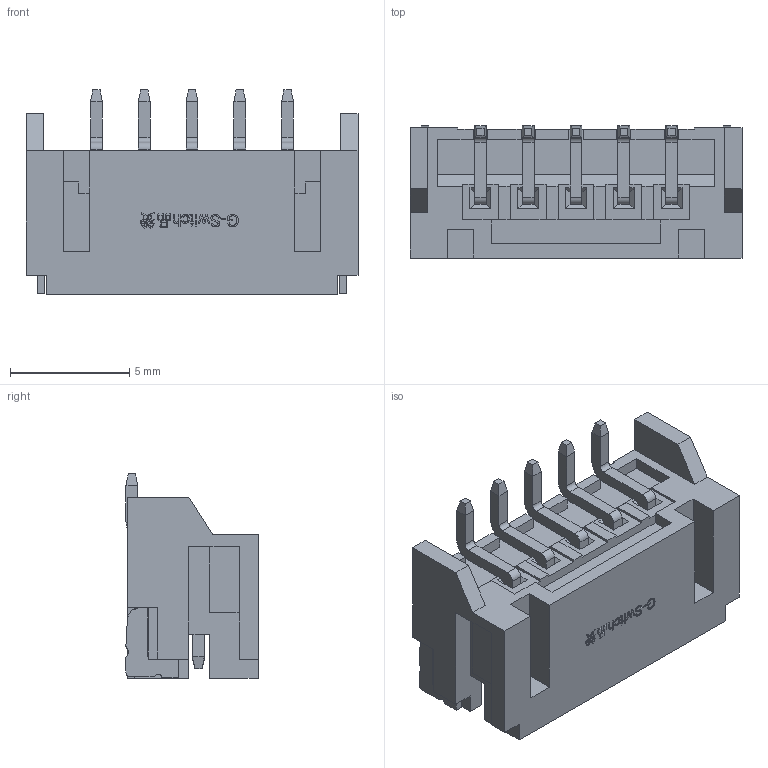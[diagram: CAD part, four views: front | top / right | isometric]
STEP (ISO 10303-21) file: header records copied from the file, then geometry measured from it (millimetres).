
FILE_DESCRIPTION (( 'STEP AP203' ), '1' );
FILE_NAME ('GT-A2001WRS-105SBT01.STEP', '2024-04-24T01:42:46', ( '' ), ( '' ), 'SwSTEP 2.0', 'SolidWorks 2023', '' );
FILE_SCHEMA (( 'CONFIG_CONTROL_DESIGN' ));
Length unit declared in the file: millimetre
Products named in the file (1): GT-A2001WRS-105SBT01
Bounding box: 13.9 x 5.54 x 8.56 mm (x, y, z)
Volume: 221.2 mm3; surface area: 704.4 mm2
Topology: 1 solids, 1 shells, 610 faces, 1707 edges, 1120 vertices
Faces by surface type: plane 499, bspline 74, cylinder 37
Entity records: 22898 total; most frequent: CARTESIAN_POINT 7576, ORIENTED_EDGE 3414, DIRECTION 2707, EDGE_CURVE 1707, VECTOR 1485, LINE 1485, VERTEX_POINT 1120, EDGE_LOOP 635
